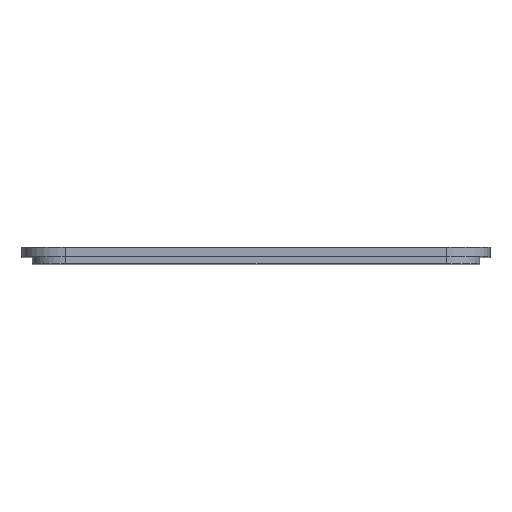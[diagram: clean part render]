
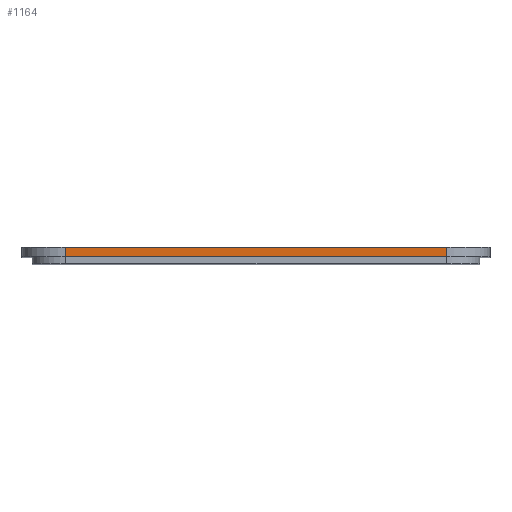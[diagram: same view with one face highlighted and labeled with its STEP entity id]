
A CAD part, top view. The second image highlights one B-rep face of the part: STEP entity #1164.
In plain terms, the highlighted planar face has unit normal (0, 0, 1).
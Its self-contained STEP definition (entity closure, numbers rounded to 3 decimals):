
#72 = PLANE('',#73);
#73 = AXIS2_PLACEMENT_3D('',#74,#75,#76);
#74 = CARTESIAN_POINT('',(0.,15.,67.));
#75 = DIRECTION('',(0.,-1.,0.));
#76 = DIRECTION('',(1.,0.,0.));
#100 = CYLINDRICAL_SURFACE('',#101,9.);
#101 = AXIS2_PLACEMENT_3D('',#102,#103,#104);
#102 = CARTESIAN_POINT('',(-39.7,17.,123.7));
#103 = DIRECTION('',(0.,1.,0.));
#104 = DIRECTION('',(1.,0.,0.));
#126 = PLANE('',#127);
#127 = AXIS2_PLACEMENT_3D('',#128,#129,#130);
#128 = CARTESIAN_POINT('',(0.,17.,67.));
#129 = DIRECTION('',(0.,-1.,0.));
#130 = DIRECTION('',(1.,0.,0.));
#219 = EDGE_CURVE('',#220,#222,#224,.T.);
#220 = VERTEX_POINT('',#221);
#221 = CARTESIAN_POINT('',(-39.7,17.,132.7));
#222 = VERTEX_POINT('',#223);
#223 = CARTESIAN_POINT('',(-39.7,15.,132.7));
#224 = SURFACE_CURVE('',#225,(#229,#236),.PCURVE_S1.);
#225 = LINE('',#226,#227);
#226 = CARTESIAN_POINT('',(-39.7,17.,132.7));
#227 = VECTOR('',#228,1.);
#228 = DIRECTION('',(0.,-1.,0.));
#229 = PCURVE('',#100,#230);
#230 = DEFINITIONAL_REPRESENTATION('',(#231),#235);
#231 = LINE('',#232,#233);
#232 = CARTESIAN_POINT('',(-1.571,0.));
#233 = VECTOR('',#234,1.);
#234 = DIRECTION('',(-0.,-1.));
#235 = ( GEOMETRIC_REPRESENTATION_CONTEXT(2) 
PARAMETRIC_REPRESENTATION_CONTEXT() REPRESENTATION_CONTEXT('2D SPACE',''
  ) );
#236 = PCURVE('',#237,#242);
#237 = PLANE('',#238);
#238 = AXIS2_PLACEMENT_3D('',#239,#240,#241);
#239 = CARTESIAN_POINT('',(-39.7,17.,132.7));
#240 = DIRECTION('',(0.,0.,1.));
#241 = DIRECTION('',(1.,0.,0.));
#242 = DEFINITIONAL_REPRESENTATION('',(#243),#247);
#243 = LINE('',#244,#245);
#244 = CARTESIAN_POINT('',(0.,0.));
#245 = VECTOR('',#246,1.);
#246 = DIRECTION('',(0.,-1.));
#247 = ( GEOMETRIC_REPRESENTATION_CONTEXT(2) 
PARAMETRIC_REPRESENTATION_CONTEXT() REPRESENTATION_CONTEXT('2D SPACE',''
  ) );
#380 = VERTEX_POINT('',#381);
#381 = CARTESIAN_POINT('',(39.7,17.,132.7));
#396 = CYLINDRICAL_SURFACE('',#397,9.);
#397 = AXIS2_PLACEMENT_3D('',#398,#399,#400);
#398 = CARTESIAN_POINT('',(39.7,17.,123.7));
#399 = DIRECTION('',(0.,1.,0.));
#400 = DIRECTION('',(1.,0.,0.));
#408 = EDGE_CURVE('',#220,#380,#409,.T.);
#409 = SURFACE_CURVE('',#410,(#414,#421),.PCURVE_S1.);
#410 = LINE('',#411,#412);
#411 = CARTESIAN_POINT('',(0.,17.,132.7));
#412 = VECTOR('',#413,1.);
#413 = DIRECTION('',(1.,0.,0.));
#414 = PCURVE('',#126,#415);
#415 = DEFINITIONAL_REPRESENTATION('',(#416),#420);
#416 = LINE('',#417,#418);
#417 = CARTESIAN_POINT('',(0.,65.7));
#418 = VECTOR('',#419,1.);
#419 = DIRECTION('',(1.,0.));
#420 = ( GEOMETRIC_REPRESENTATION_CONTEXT(2) 
PARAMETRIC_REPRESENTATION_CONTEXT() REPRESENTATION_CONTEXT('2D SPACE',''
  ) );
#421 = PCURVE('',#237,#422);
#422 = DEFINITIONAL_REPRESENTATION('',(#423),#427);
#423 = LINE('',#424,#425);
#424 = CARTESIAN_POINT('',(39.7,0.));
#425 = VECTOR('',#426,1.);
#426 = DIRECTION('',(1.,0.));
#427 = ( GEOMETRIC_REPRESENTATION_CONTEXT(2) 
PARAMETRIC_REPRESENTATION_CONTEXT() REPRESENTATION_CONTEXT('2D SPACE',''
  ) );
#847 = VERTEX_POINT('',#848);
#848 = CARTESIAN_POINT('',(39.7,15.,132.7));
#870 = EDGE_CURVE('',#222,#847,#871,.T.);
#871 = SURFACE_CURVE('',#872,(#876,#883),.PCURVE_S1.);
#872 = LINE('',#873,#874);
#873 = CARTESIAN_POINT('',(0.,15.,132.7));
#874 = VECTOR('',#875,1.);
#875 = DIRECTION('',(1.,0.,0.));
#876 = PCURVE('',#72,#877);
#877 = DEFINITIONAL_REPRESENTATION('',(#878),#882);
#878 = LINE('',#879,#880);
#879 = CARTESIAN_POINT('',(0.,65.7));
#880 = VECTOR('',#881,1.);
#881 = DIRECTION('',(1.,0.));
#882 = ( GEOMETRIC_REPRESENTATION_CONTEXT(2) 
PARAMETRIC_REPRESENTATION_CONTEXT() REPRESENTATION_CONTEXT('2D SPACE',''
  ) );
#883 = PCURVE('',#237,#884);
#884 = DEFINITIONAL_REPRESENTATION('',(#885),#889);
#885 = LINE('',#886,#887);
#886 = CARTESIAN_POINT('',(39.7,-2.));
#887 = VECTOR('',#888,1.);
#888 = DIRECTION('',(1.,0.));
#889 = ( GEOMETRIC_REPRESENTATION_CONTEXT(2) 
PARAMETRIC_REPRESENTATION_CONTEXT() REPRESENTATION_CONTEXT('2D SPACE',''
  ) );
#1164 = ADVANCED_FACE('',(#1165),#237,.T.);
#1165 = FACE_BOUND('',#1166,.T.);
#1166 = EDGE_LOOP('',(#1167,#1168,#1169,#1190));
#1167 = ORIENTED_EDGE('',*,*,#219,.T.);
#1168 = ORIENTED_EDGE('',*,*,#870,.T.);
#1169 = ORIENTED_EDGE('',*,*,#1170,.F.);
#1170 = EDGE_CURVE('',#380,#847,#1171,.T.);
#1171 = SURFACE_CURVE('',#1172,(#1176,#1183),.PCURVE_S1.);
#1172 = LINE('',#1173,#1174);
#1173 = CARTESIAN_POINT('',(39.7,17.,132.7));
#1174 = VECTOR('',#1175,1.);
#1175 = DIRECTION('',(0.,-1.,0.));
#1176 = PCURVE('',#237,#1177);
#1177 = DEFINITIONAL_REPRESENTATION('',(#1178),#1182);
#1178 = LINE('',#1179,#1180);
#1179 = CARTESIAN_POINT('',(79.4,0.));
#1180 = VECTOR('',#1181,1.);
#1181 = DIRECTION('',(0.,-1.));
#1182 = ( GEOMETRIC_REPRESENTATION_CONTEXT(2) 
PARAMETRIC_REPRESENTATION_CONTEXT() REPRESENTATION_CONTEXT('2D SPACE',''
  ) );
#1183 = PCURVE('',#396,#1184);
#1184 = DEFINITIONAL_REPRESENTATION('',(#1185),#1189);
#1185 = LINE('',#1186,#1187);
#1186 = CARTESIAN_POINT('',(-1.571,0.));
#1187 = VECTOR('',#1188,1.);
#1188 = DIRECTION('',(-0.,-1.));
#1189 = ( GEOMETRIC_REPRESENTATION_CONTEXT(2) 
PARAMETRIC_REPRESENTATION_CONTEXT() REPRESENTATION_CONTEXT('2D SPACE',''
  ) );
#1190 = ORIENTED_EDGE('',*,*,#408,.F.);
